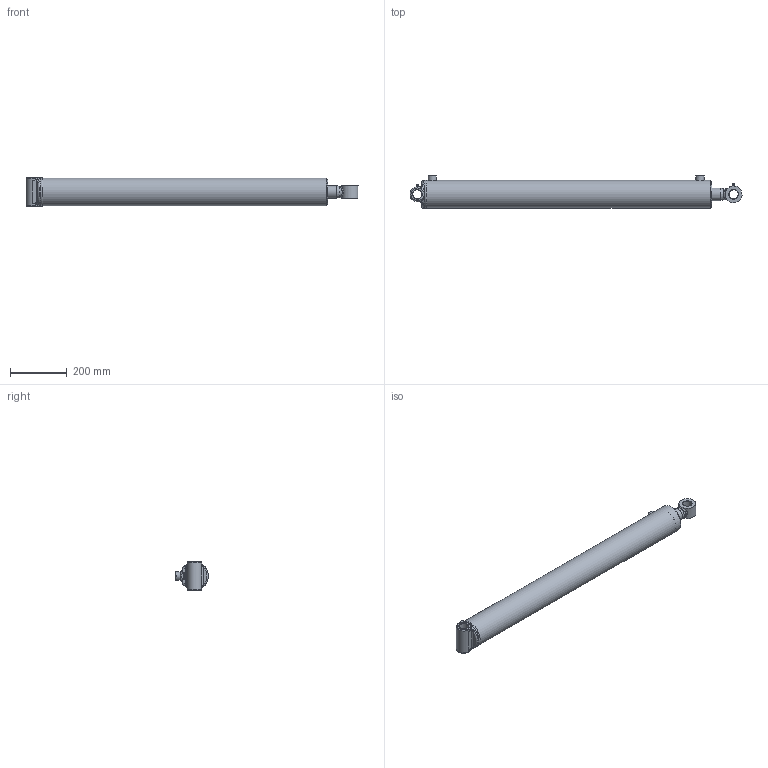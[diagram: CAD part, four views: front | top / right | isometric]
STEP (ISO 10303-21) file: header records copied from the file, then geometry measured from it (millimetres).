
FILE_DESCRIPTION(/* description */ ('Ø3.50 X 36.00 DA'),/* implementation_level */ '2;1');
FILE_NAME(/* name */ 'result.stp',/* time_stamp */ '2024-07-12T20:57:49Z',/* author */ ('AJC'),/* organization */ ('PRINCE MANUFACTURING'),/* preprocessor_version */ 'ST-DEVELOPER v20',/* originating_system */ 'Autodesk Inventor 2024',/* authorisation */ '');
FILE_SCHEMA (('AUTOMOTIVE_DESIGN { 1 0 10303 214 3 1 1 }'));
Length unit declared in the file: inch
Products named in the file (21): PC3536017A00-440XYXA; 0617-XYSF000-39570; 0517-T-39570; 161700179; 200015603; 06Weld1_C360; 0717-P-100; 220000210; 0817-G-175; 230025105; 230025005; 240000022; 240061338; 240000338; 0210A-HAW5-41687XA; 0110A-HAW5-41687; 210600529; 02Weld_C360; 240020007; 250014175; 270010020
Assembly tree (22 placements, depth 3):
  PC3536017A00-440XYXA
    0617-XYSF000-39570
      0517-T-39570
      161700179
      200015603  x2
      06Weld1_C360
    0717-P-100
    220000210
    0817-G-175
    230025105
    230025005
    240000022
    240061338
    240000338
    0210A-HAW5-41687XA
      0110A-HAW5-41687
      210600529
      02Weld_C360
    240020007
    250014175
    270010020  x2
Bounding box: 1173.12 x 116.74 x 101.6 mm (x, y, z)
Volume: 3678135.5 mm3; surface area: 928830.7 mm2
Topology: 26 solids, 26 shells, 536 faces, 1281 edges, 823 vertices
Faces by surface type: plane 144, bspline 128, torus 89, cylinder 87, cone 84, sphere 4
Full cylindrical faces by diameter (mm): 2.143 x4, 3.175 x1, 5.359 x2, 6.35 x2, 9.525 x2, 12.649 x1, 12.7 x1, 12.725 x1, 17.323 x2, 23.444 x1, 25.349 x1, 25.476 x1, 27.965 x1, 28.575 x2, 32.131 x2, 44.45 x1, 44.526 x2, 45.644 x2, 46.482 x1, 46.838 x1, 51.613 x1, 52.807 x1, 54 x1, 55.626 x2, 57.15 x2, 61.976 x1, 69.85 x2, 79.477 x2, 80.213 x2, 83.82 x1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
Entity records: 29468 total; most frequent: CARTESIAN_POINT 17326, ORIENTED_EDGE 2352, DIRECTION 2142, EDGE_CURVE 1176, AXIS2_PLACEMENT_3D 908, VERTEX_POINT 762, EDGE_LOOP 572, FACE_OUTER_BOUND 492
